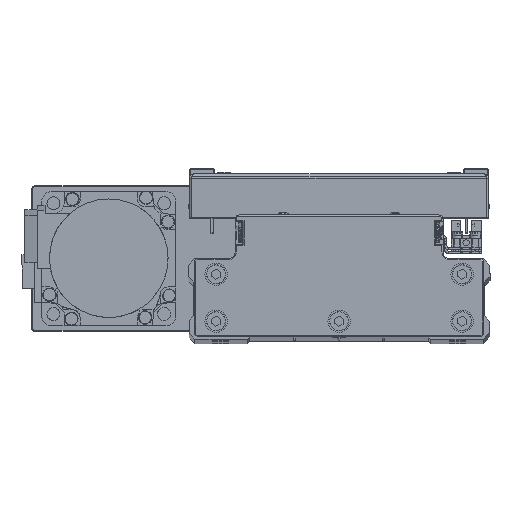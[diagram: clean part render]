
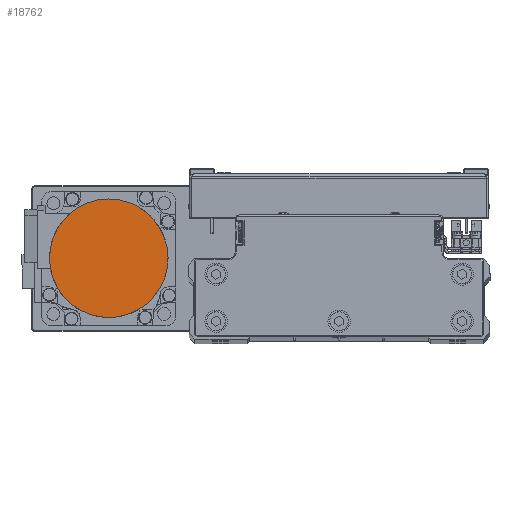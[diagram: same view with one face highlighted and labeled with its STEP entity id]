
A CAD part, top view. The second image highlights one B-rep face of the part: STEP entity #18762.
In plain terms, the highlighted planar face has unit normal (0, 0, 1) as drawn and (0, 0, -1) by its records, which use the part's own axes.
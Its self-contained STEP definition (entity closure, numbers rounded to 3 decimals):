
#243 = CARTESIAN_POINT ( 'NONE',  ( -26.329, -3.469, -109.7 ) ) ;
#463 = CARTESIAN_POINT ( 'NONE',  ( -3.469, -26.329, -109.7 ) ) ;
#698 = CARTESIAN_POINT ( 'NONE',  ( 23.819, -11.744, -109.7 ) ) ;
#2621 = CARTESIAN_POINT ( 'NONE',  ( 16.165, 21.07, -109.7 ) ) ;
#2840 = EDGE_LOOP ( 'NONE', ( #11468, #36900 ) ) ;
#2845 = CARTESIAN_POINT ( 'NONE',  ( -16.165, 21.07, -109.7 ) ) ;
#3892 = CARTESIAN_POINT ( 'NONE',  ( -11.744, -23.819, -109.7 ) ) ;
#4126 = CARTESIAN_POINT ( 'NONE',  ( 19.965, -17.512, -109.7 ) ) ;
#6026 = CARTESIAN_POINT ( 'NONE',  ( 21.07, 16.165, -109.7 ) ) ;
#6250 = CARTESIAN_POINT ( 'NONE',  ( -8.539, 25.147, -109.7 ) ) ;
#6473 = CARTESIAN_POINT ( 'NONE',  ( -26.5, 0., -109.7 ) ) ;
#6781 = DIRECTION ( 'NONE',  ( 0., 0., 1. ) ) ;
#7296 = CARTESIAN_POINT ( 'NONE',  ( -17.512, -19.965, -109.7 ) ) ;
#7516 = CARTESIAN_POINT ( 'NONE',  ( 13.28, -22.998, -109.7 ) ) ;
#9441 = CARTESIAN_POINT ( 'NONE',  ( 25.147, 8.539, -109.7 ) ) ;
#9655 = CARTESIAN_POINT ( 'NONE',  ( -1.734, 26.5, -109.7 ) ) ;
#9875 = CARTESIAN_POINT ( 'NONE',  ( -25.652, 6.871, -109.7 ) ) ;
#10198 = FACE_OUTER_BOUND ( 'NONE', #2840, .T. ) ;
#10685 = CARTESIAN_POINT ( 'NONE',  ( -22.998, -13.28, -109.7 ) ) ;
#10915 = CARTESIAN_POINT ( 'NONE',  ( 6.871, -25.652, -109.7 ) ) ;
#11133 = CARTESIAN_POINT ( 'NONE',  ( 26.5, -1.734, -109.7 ) ) ;
#11468 = ORIENTED_EDGE ( 'NONE', *, *, #15482, .F. ) ;
#12774 = VERTEX_POINT ( 'NONE', #15042 ) ;
#12826 = CARTESIAN_POINT ( 'NONE',  ( 26.5, 1.734, -109.7 ) ) ;
#13053 = CARTESIAN_POINT ( 'NONE',  ( 6.871, 25.652, -109.7 ) ) ;
#13267 = CARTESIAN_POINT ( 'NONE',  ( -22.998, 13.28, -109.7 ) ) ;
#14084 = CARTESIAN_POINT ( 'NONE',  ( -25.652, -6.871, -109.7 ) ) ;
#14310 = CARTESIAN_POINT ( 'NONE',  ( -1.734, -26.5, -109.7 ) ) ;
#14546 = CARTESIAN_POINT ( 'NONE',  ( 25.147, -8.539, -109.7 ) ) ;
#15042 = CARTESIAN_POINT ( 'NONE',  ( -26.5, 0., -109.7 ) ) ;
#15482 = EDGE_CURVE ( 'NONE', #34286, #12774, #43486, .T. ) ;
#16456 = CARTESIAN_POINT ( 'NONE',  ( 13.28, 22.998, -109.7 ) ) ;
#16684 = CARTESIAN_POINT ( 'NONE',  ( -17.512, 19.965, -109.7 ) ) ;
#17498 = CARTESIAN_POINT ( 'NONE',  ( -26.5, 0., -109.7 ) ) ;
#17721 = CARTESIAN_POINT ( 'NONE',  ( -8.539, -25.147, -109.7 ) ) ;
#17947 = CARTESIAN_POINT ( 'NONE',  ( 21.07, -16.165, -109.7 ) ) ;
#18762 = ADVANCED_FACE ( 'NONE', ( #10198 ), #24012, .F. ) ;
#19857 = CARTESIAN_POINT ( 'NONE',  ( 19.965, 17.512, -109.7 ) ) ;
#20080 = CARTESIAN_POINT ( 'NONE',  ( -11.744, 23.819, -109.7 ) ) ;
#20614 = DIRECTION ( 'NONE',  ( 1., 0., 0. ) ) ;
#21121 = CARTESIAN_POINT ( 'NONE',  ( -16.165, -21.07, -109.7 ) ) ;
#21349 = CARTESIAN_POINT ( 'NONE',  ( 16.165, -21.07, -109.7 ) ) ;
#23259 = CARTESIAN_POINT ( 'NONE',  ( 23.819, 11.744, -109.7 ) ) ;
#23471 = CARTESIAN_POINT ( 'NONE',  ( -3.469, 26.329, -109.7 ) ) ;
#23693 = CARTESIAN_POINT ( 'NONE',  ( -26.329, 3.469, -109.7 ) ) ;
#24012 = PLANE ( 'NONE',  #27062 ) ;
#24508 = CARTESIAN_POINT ( 'NONE',  ( -21.07, -16.165, -109.7 ) ) ;
#24736 = CARTESIAN_POINT ( 'NONE',  ( 8.539, -25.147, -109.7 ) ) ;
#24960 = CARTESIAN_POINT ( 'NONE',  ( 26.5, 0., -109.7 ) ) ;
#26666 = CARTESIAN_POINT ( 'NONE',  ( 26.329, 3.469, -109.7 ) ) ;
#26885 = CARTESIAN_POINT ( 'NONE',  ( 3.469, 26.329, -109.7 ) ) ;
#27062 = AXIS2_PLACEMENT_3D ( 'NONE', #37849, #6781, #20614 ) ;
#27098 = CARTESIAN_POINT ( 'NONE',  ( -23.819, 11.744, -109.7 ) ) ;
#27906 = CARTESIAN_POINT ( 'NONE',  ( -25.147, -8.539, -109.7 ) ) ;
#28143 = CARTESIAN_POINT ( 'NONE',  ( 1.734, -26.5, -109.7 ) ) ;
#28370 = CARTESIAN_POINT ( 'NONE',  ( 25.652, -6.871, -109.7 ) ) ;
#30284 = CARTESIAN_POINT ( 'NONE',  ( 11.744, 23.819, -109.7 ) ) ;
#30506 = CARTESIAN_POINT ( 'NONE',  ( -19.965, 17.512, -109.7 ) ) ;
#31324 = CARTESIAN_POINT ( 'NONE',  ( -26.5, -1.734, -109.7 ) ) ;
#31551 = CARTESIAN_POINT ( 'NONE',  ( -6.871, -25.652, -109.7 ) ) ;
#31779 = CARTESIAN_POINT ( 'NONE',  ( 22.998, -13.28, -109.7 ) ) ;
#33687 = CARTESIAN_POINT ( 'NONE',  ( 17.512, 19.965, -109.7 ) ) ;
#33913 = CARTESIAN_POINT ( 'NONE',  ( -13.28, 22.998, -109.7 ) ) ;
#34286 = VERTEX_POINT ( 'NONE', #43913 ) ;
#34964 = CARTESIAN_POINT ( 'NONE',  ( -13.28, -22.998, -109.7 ) ) ;
#35190 = CARTESIAN_POINT ( 'NONE',  ( 17.512, -19.965, -109.7 ) ) ;
#36900 = ORIENTED_EDGE ( 'NONE', *, *, #38462, .F. ) ;
#37101 = CARTESIAN_POINT ( 'NONE',  ( 22.998, 13.28, -109.7 ) ) ;
#37319 = CARTESIAN_POINT ( 'NONE',  ( -6.871, 25.652, -109.7 ) ) ;
#37538 = CARTESIAN_POINT ( 'NONE',  ( -26.5, 1.734, -109.7 ) ) ;
#37849 = CARTESIAN_POINT ( 'NONE',  ( 0., 0., -109.7 ) ) ;
#38359 = CARTESIAN_POINT ( 'NONE',  ( -19.965, -17.512, -109.7 ) ) ;
#38462 = EDGE_CURVE ( 'NONE', #12774, #34286, #44692, .T. ) ;
#38581 = CARTESIAN_POINT ( 'NONE',  ( 11.744, -23.819, -109.7 ) ) ;
#40496 = CARTESIAN_POINT ( 'NONE',  ( 25.652, 6.871, -109.7 ) ) ;
#40719 = CARTESIAN_POINT ( 'NONE',  ( 1.734, 26.5, -109.7 ) ) ;
#40929 = CARTESIAN_POINT ( 'NONE',  ( -25.147, 8.539, -109.7 ) ) ;
#41741 = CARTESIAN_POINT ( 'NONE',  ( -23.819, -11.744, -109.7 ) ) ;
#41972 = CARTESIAN_POINT ( 'NONE',  ( 3.469, -26.329, -109.7 ) ) ;
#42197 = CARTESIAN_POINT ( 'NONE',  ( 26.329, -3.469, -109.7 ) ) ;
#43486 = B_SPLINE_CURVE_WITH_KNOTS ( 'NONE', 3,
 ( #43892, #12826, #26666, #40496, #9441, #23259, #37101, #6026, #19857, #33687, #2621, #16456, #30284, #44125, #13053, #26885, #40719, #9655, #23471, #37319, #6250, #20080, #33913, #2845, #16684, #30506, #44342, #13267, #27098, #40929, #9875, #23693, #37538, #6473 ),
 .UNSPECIFIED., .F., .F.,
 ( 4, 2, 2, 2, 2, 2, 2, 2, 2, 2, 2, 2, 2, 2, 2, 2, 4 ),
 ( 0., 0.062, 0.125, 0.187, 0.25, 0.312, 0.375, 0.437, 0.5, 0.562, 0.625, 0.687, 0.75, 0.813, 0.875, 0.938, 1. ),
 .UNSPECIFIED. ) ;
#43892 = CARTESIAN_POINT ( 'NONE',  ( 26.5, 0., -109.7 ) ) ;
#43913 = CARTESIAN_POINT ( 'NONE',  ( 26.5, 0., -109.7 ) ) ;
#44125 = CARTESIAN_POINT ( 'NONE',  ( 8.539, 25.147, -109.7 ) ) ;
#44342 = CARTESIAN_POINT ( 'NONE',  ( -21.07, 16.165, -109.7 ) ) ;
#44692 = B_SPLINE_CURVE_WITH_KNOTS ( 'NONE', 3,
 ( #17498, #31324, #243, #14084, #27906, #41741, #10685, #24508, #38359, #7296, #21121, #34964, #3892, #17721, #31551, #463, #14310, #28143, #41972, #10915, #24736, #38581, #7516, #21349, #35190, #4126, #17947, #31779, #698, #14546, #28370, #42197, #11133, #24960 ),
 .UNSPECIFIED., .F., .F.,
 ( 4, 2, 2, 2, 2, 2, 2, 2, 2, 2, 2, 2, 2, 2, 2, 2, 4 ),
 ( 0., 0.063, 0.125, 0.188, 0.25, 0.312, 0.375, 0.437, 0.5, 0.562, 0.625, 0.687, 0.75, 0.813, 0.875, 0.938, 1. ),
 .UNSPECIFIED. ) ;
